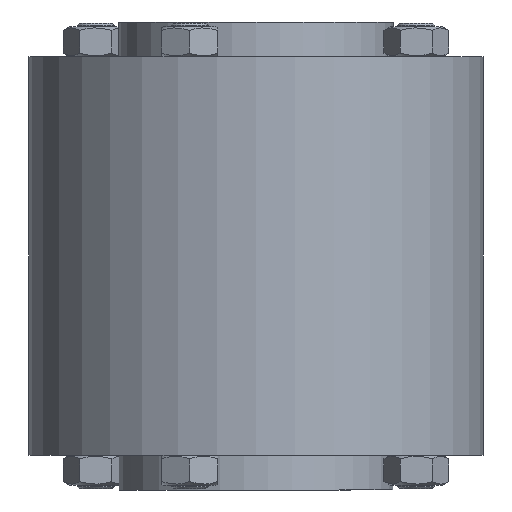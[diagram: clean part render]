
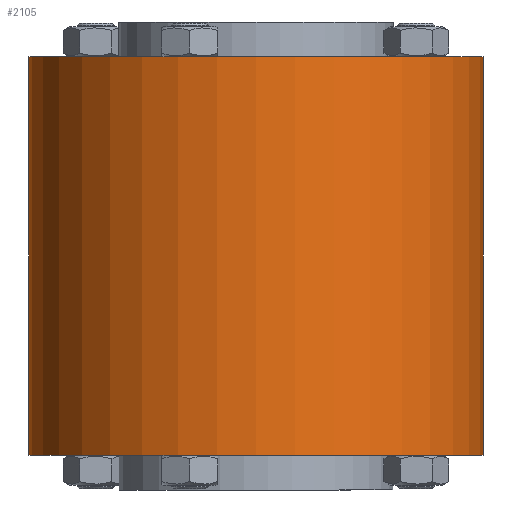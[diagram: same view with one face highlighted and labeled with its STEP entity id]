
A CAD part, front view. The second image highlights one B-rep face of the part: STEP entity #2105.
In plain terms, the highlighted cylindrical face has radius 97.5 mm (diameter 195 mm), a full revolution.
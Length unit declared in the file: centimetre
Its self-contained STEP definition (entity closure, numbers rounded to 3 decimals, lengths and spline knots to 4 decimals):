
#34=CYLINDRICAL_SURFACE('',#2313,9.75);
#362=FACE_BOUND('',#710,.T.);
#520=FACE_OUTER_BOUND('',#709,.T.);
#709=EDGE_LOOP('',(#1689));
#710=EDGE_LOOP('',(#1690));
#882=CIRCLE('',#2314,9.75);
#883=CIRCLE('',#2315,9.75);
#1062=VERTEX_POINT('',#3516);
#1063=VERTEX_POINT('',#3518);
#1296=EDGE_CURVE('',#1062,#1062,#882,.T.);
#1297=EDGE_CURVE('',#1063,#1063,#883,.T.);
#1689=ORIENTED_EDGE('',*,*,#1296,.F.);
#1690=ORIENTED_EDGE('',*,*,#1297,.F.);
#2105=ADVANCED_FACE('',(#520,#362),#34,.T.);
#2313=AXIS2_PLACEMENT_3D('',#3515,#2741,#2742);
#2314=AXIS2_PLACEMENT_3D('',#3517,#2743,#2744);
#2315=AXIS2_PLACEMENT_3D('',#3519,#2745,#2746);
#2741=DIRECTION('center_axis',(0.,0.,
-1.));
#2742=DIRECTION('ref_axis',(-0.707,-0.707,0.));
#2743=DIRECTION('center_axis',(0.,0.,
1.));
#2744=DIRECTION('ref_axis',(0.,-1.,0.));
#2745=DIRECTION('center_axis',(0.,0.,
-1.));
#2746=DIRECTION('ref_axis',(0.707,-0.707,0.));
#3515=CARTESIAN_POINT('Origin',(0.,0.,
-8.175));
#3516=CARTESIAN_POINT('',(9.75,0.,8.55));
#3517=CARTESIAN_POINT('Origin',(0.,0.,
8.55));
#3518=CARTESIAN_POINT('',(9.75,0.,-8.55));
#3519=CARTESIAN_POINT('Origin',(0.,0.,
-8.55));
